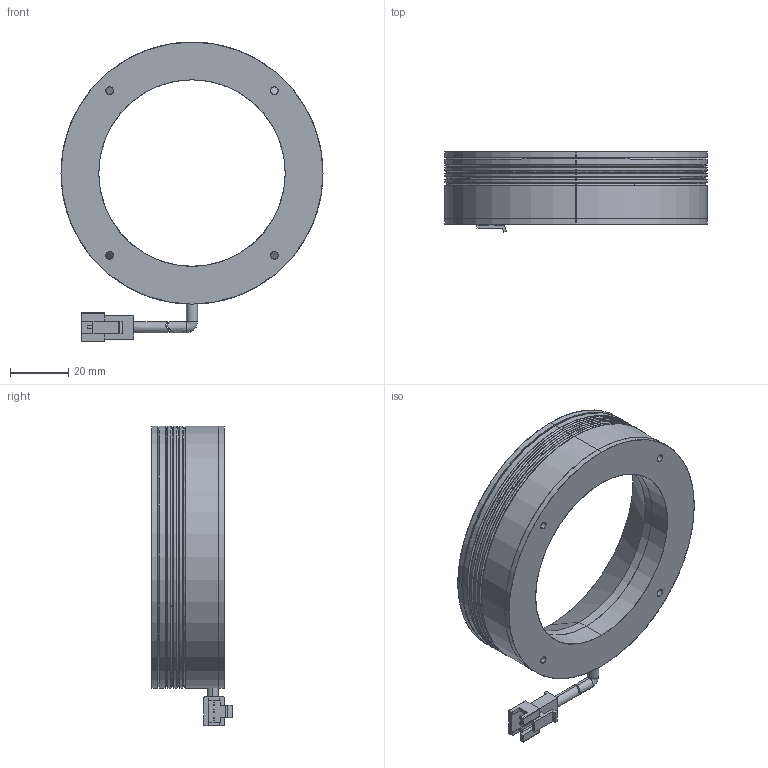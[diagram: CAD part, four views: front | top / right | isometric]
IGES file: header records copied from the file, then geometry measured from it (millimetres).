
Start section: SolidWorks IGES file using analytic representation for surfaces
Global section: file name: E:\SynologyDrive\新款图纸\标准产品\环光\环光60\R9060-64\ED\R9060-64.IGS; native system: SolidWorks 2020; preprocessor: SolidWorks 2020; author: Administrator; date: 200827.113346; units: millimetre
Bounding box: 90 x 27.51 x 103 mm (x, y, z)
Surface area: 44770.5 mm2 (no closed solid volume)
Topology: 0 solids, 0 shells, 298 faces, 3780 edges, 3756 vertices
Faces by surface type: bspline 162, revolution 136
